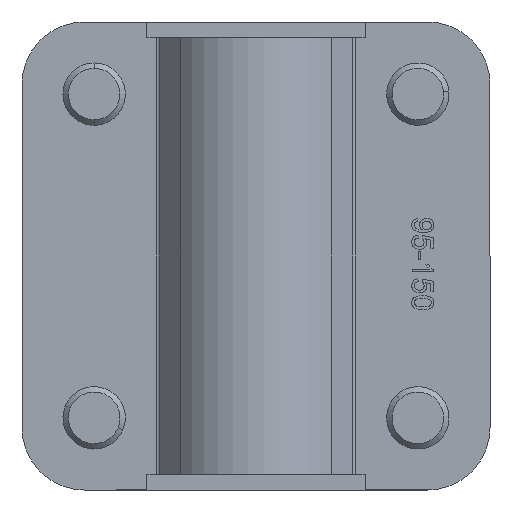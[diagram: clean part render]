
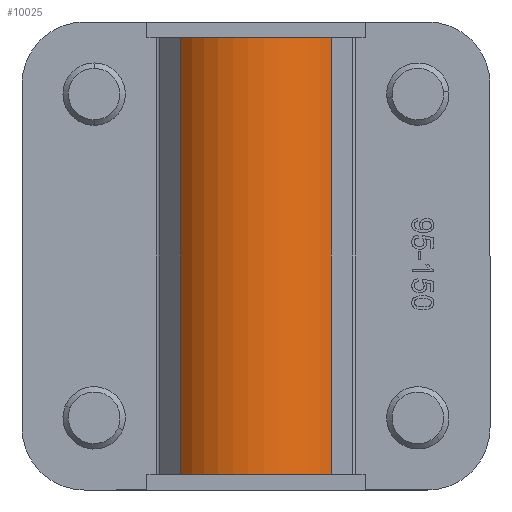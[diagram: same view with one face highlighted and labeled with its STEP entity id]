
A CAD part, front view. The second image highlights one B-rep face of the part: STEP entity #10025.
In plain terms, the highlighted cylindrical face has radius 12.5 mm (diameter 25 mm), a partial arc.
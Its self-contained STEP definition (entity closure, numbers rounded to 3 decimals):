
#372 = DIRECTION ( 'NONE',  ( -1., 0., 0. ) ) ;
#537 = AXIS2_PLACEMENT_3D ( 'NONE', #7300, #11445, #1076 ) ;
#692 = CIRCLE ( 'NONE', #2397, 12.5 ) ;
#1076 = DIRECTION ( 'NONE',  ( 0., 0., -1. ) ) ;
#1555 = VECTOR ( 'NONE', #7249, 1000. ) ;
#1854 = EDGE_CURVE ( 'NONE', #2663, #8815, #12522, .T. ) ;
#2397 = AXIS2_PLACEMENT_3D ( 'NONE', #9603, #8581, #4524 ) ;
#2663 = VERTEX_POINT ( 'NONE', #12937 ) ;
#3506 = ORIENTED_EDGE ( 'NONE', *, *, #5175, .T. ) ;
#4524 = DIRECTION ( 'NONE',  ( 0., 0., -1. ) ) ;
#4878 = ORIENTED_EDGE ( 'NONE', *, *, #1854, .T. ) ;
#5175 = EDGE_CURVE ( 'NONE', #6993, #2663, #692, .T. ) ;
#5385 = CYLINDRICAL_SURFACE ( 'NONE', #8198, 12.5 ) ;
#6147 = DIRECTION ( 'NONE',  ( -1., 0., 0. ) ) ;
#6234 = CARTESIAN_POINT ( 'NONE',  ( 30., 3.467, -9.632 ) ) ;
#6800 = EDGE_CURVE ( 'NONE', #6993, #7158, #12375, .T. ) ;
#6993 = VERTEX_POINT ( 'NONE', #10060 ) ;
#7158 = VERTEX_POINT ( 'NONE', #9283 ) ;
#7177 = CARTESIAN_POINT ( 'NONE',  ( 30., -4.5, 0. ) ) ;
#7249 = DIRECTION ( 'NONE',  ( -1., 0., 0. ) ) ;
#7300 = CARTESIAN_POINT ( 'NONE',  ( -28., -4.5, 0. ) ) ;
#7341 = VECTOR ( 'NONE', #372, 1000. ) ;
#8198 = AXIS2_PLACEMENT_3D ( 'NONE', #7177, #6147, #8216 ) ;
#8216 = DIRECTION ( 'NONE',  ( 0., 0., 1. ) ) ;
#8581 = DIRECTION ( 'NONE',  ( -1., 0., 0. ) ) ;
#8815 = VERTEX_POINT ( 'NONE', #9011 ) ;
#9011 = CARTESIAN_POINT ( 'NONE',  ( -28., 3.467, -9.632 ) ) ;
#9272 = ORIENTED_EDGE ( 'NONE', *, *, #6800, .F. ) ;
#9283 = CARTESIAN_POINT ( 'NONE',  ( -28., 3.467, 9.632 ) ) ;
#9603 = CARTESIAN_POINT ( 'NONE',  ( 28., -4.5, 0. ) ) ;
#9698 = EDGE_CURVE ( 'NONE', #7158, #8815, #11213, .T. ) ;
#10025 = ADVANCED_FACE ( 'NONE', ( #10417 ), #5385, .T. ) ;
#10060 = CARTESIAN_POINT ( 'NONE',  ( 28., 3.467, 9.632 ) ) ;
#10417 = FACE_OUTER_BOUND ( 'NONE', #12179, .T. ) ;
#11213 = CIRCLE ( 'NONE', #537, 12.5 ) ;
#11445 = DIRECTION ( 'NONE',  ( -1., 0., 0. ) ) ;
#11871 = ORIENTED_EDGE ( 'NONE', *, *, #9698, .F. ) ;
#12179 = EDGE_LOOP ( 'NONE', ( #9272, #3506, #4878, #11871 ) ) ;
#12375 = LINE ( 'NONE', #12703, #7341 ) ;
#12522 = LINE ( 'NONE', #6234, #1555 ) ;
#12703 = CARTESIAN_POINT ( 'NONE',  ( 30., 3.467, 9.632 ) ) ;
#12937 = CARTESIAN_POINT ( 'NONE',  ( 28., 3.467, -9.632 ) ) ;
